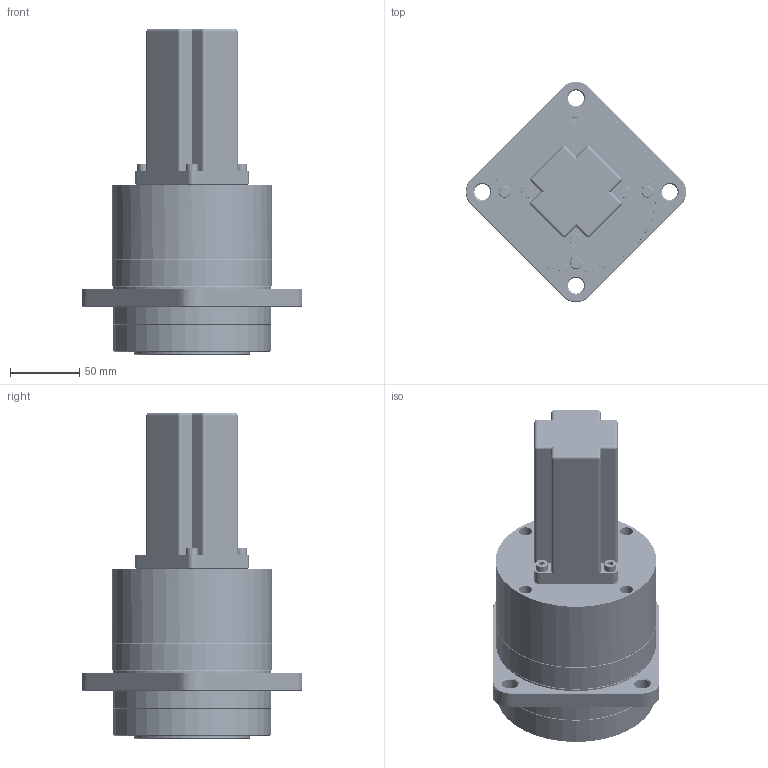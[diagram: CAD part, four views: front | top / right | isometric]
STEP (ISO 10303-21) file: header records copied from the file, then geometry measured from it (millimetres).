
FILE_DESCRIPTION(/* description */ (''),/* implementation_level */ '2;1');
FILE_NAME(/* name */ 'PG32-60伺服电机安装方案.stp',/* time_stamp */ '2022-08-04T17:52:39+08:00',/* author */ (''),/* organization */ (''),/* preprocessor_version */ 'ST-DEVELOPER v16',/* originating_system */ 'SIEMENS PLM Software NX 10.0',/* authorisation */ '');
FILE_SCHEMA (('CONFIG_CONTROL_DESIGN'));
Products named in the file (1): 111
Bounding box: 158.84 x 158.84 x 235.2 mm (x, y, z)
Volume: 1346187.1 mm3; surface area: 343539.3 mm2
Topology: 50 solids, 50 shells, 1401 faces, 3421 edges, 2229 vertices
Faces by surface type: plane 576, cylinder 422, cone 187, bspline 185, sphere 20, torus 11
Full cylindrical faces by diameter (mm): 4.4 x2, 4.5 x1, 5 x33, 5.5 x21, 6 x4, 6.5 x12, 7.5 x1, 8 x1, 8.5 x19, 8.72 x3, 9 x8, 9.5 x16, 11.5 x4, 13 x5, 14 x2, 19 x1, 20 x1, 22 x2, 26 x3, 28.5 x1, 30 x3, 32 x1, 35 x1, 36 x2, 38 x2, 40 x3, 45 x1, 47 x3, 48 x3, 50 x2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
Entity records: 443469 total; most frequent: CARTESIAN_POINT 414689, ORIENTED_EDGE 5626, DIRECTION 5330, EDGE_CURVE 2813, AXIS2_PLACEMENT_3D 2141, VERTEX_POINT 2045, EDGE_LOOP 2007, ADVANCED_FACE 1369
